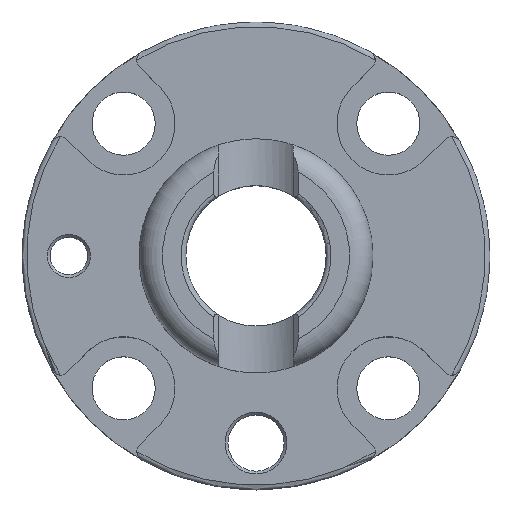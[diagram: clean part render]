
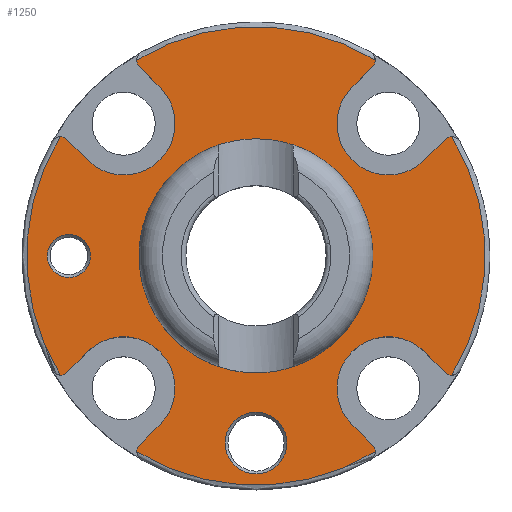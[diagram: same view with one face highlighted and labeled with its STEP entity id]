
A CAD part, top view. The second image highlights one B-rep face of the part: STEP entity #1250.
In plain terms, the highlighted planar face has unit normal (0, 0, 1).
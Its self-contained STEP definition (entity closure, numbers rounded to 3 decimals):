
#80=FACE_BOUND('',#191,.T.);
#81=FACE_BOUND('',#192,.T.);
#82=FACE_BOUND('',#193,.T.);
#89=PLANE('',#1351);
#119=FACE_OUTER_BOUND('',#190,.T.);
#190=EDGE_LOOP('',(#836,#837,#838,#839,#840,#841,#842,#843,#844,#845,#846,
#847,#848,#849,#850,#851,#852,#853,#854,#855,#856,#857,#858,#859));
#191=EDGE_LOOP('',(#860));
#192=EDGE_LOOP('',(#861,#862));
#193=EDGE_LOOP('',(#863));
#261=LINE('',#1915,#335);
#262=LINE('',#1919,#336);
#263=LINE('',#1927,#337);
#264=LINE('',#1931,#338);
#265=LINE('',#1939,#339);
#266=LINE('',#1943,#340);
#267=LINE('',#1951,#341);
#268=LINE('',#1954,#342);
#335=VECTOR('',#1541,10.);
#336=VECTOR('',#1544,10.);
#337=VECTOR('',#1551,10.);
#338=VECTOR('',#1554,10.);
#339=VECTOR('',#1561,10.);
#340=VECTOR('',#1564,10.);
#341=VECTOR('',#1571,10.);
#342=VECTOR('',#1574,10.);
#420=CIRCLE('',#1350,3.3);
#421=CIRCLE('',#1352,1.);
#422=CIRCLE('',#1353,24.5);
#423=CIRCLE('',#1354,1.);
#424=CIRCLE('',#1355,5.5);
#425=CIRCLE('',#1356,1.);
#426=CIRCLE('',#1357,24.5);
#427=CIRCLE('',#1358,1.);
#428=CIRCLE('',#1359,5.5);
#429=CIRCLE('',#1360,1.);
#430=CIRCLE('',#1361,24.5);
#431=CIRCLE('',#1362,1.);
#432=CIRCLE('',#1363,5.5);
#433=CIRCLE('',#1364,1.);
#434=CIRCLE('',#1365,24.5);
#435=CIRCLE('',#1366,1.);
#436=CIRCLE('',#1367,5.5);
#437=CIRCLE('',#1368,2.3);
#438=CIRCLE('',#1369,12.5);
#439=CIRCLE('',#1370,12.5);
#508=VERTEX_POINT('',#1903);
#509=VERTEX_POINT('',#1907);
#510=VERTEX_POINT('',#1908);
#511=VERTEX_POINT('',#1910);
#512=VERTEX_POINT('',#1912);
#513=VERTEX_POINT('',#1914);
#514=VERTEX_POINT('',#1916);
#515=VERTEX_POINT('',#1918);
#516=VERTEX_POINT('',#1920);
#517=VERTEX_POINT('',#1922);
#518=VERTEX_POINT('',#1924);
#519=VERTEX_POINT('',#1926);
#520=VERTEX_POINT('',#1928);
#521=VERTEX_POINT('',#1930);
#522=VERTEX_POINT('',#1932);
#523=VERTEX_POINT('',#1934);
#524=VERTEX_POINT('',#1936);
#525=VERTEX_POINT('',#1938);
#526=VERTEX_POINT('',#1940);
#527=VERTEX_POINT('',#1942);
#528=VERTEX_POINT('',#1944);
#529=VERTEX_POINT('',#1946);
#530=VERTEX_POINT('',#1948);
#531=VERTEX_POINT('',#1950);
#532=VERTEX_POINT('',#1952);
#533=VERTEX_POINT('',#1955);
#534=VERTEX_POINT('',#1957);
#535=VERTEX_POINT('',#1958);
#637=EDGE_CURVE('',#508,#508,#420,.T.);
#639=EDGE_CURVE('',#509,#510,#421,.T.);
#640=EDGE_CURVE('',#511,#509,#422,.T.);
#641=EDGE_CURVE('',#512,#511,#423,.T.);
#642=EDGE_CURVE('',#512,#513,#261,.T.);
#643=EDGE_CURVE('',#513,#514,#424,.T.);
#644=EDGE_CURVE('',#514,#515,#262,.T.);
#645=EDGE_CURVE('',#516,#515,#425,.T.);
#646=EDGE_CURVE('',#517,#516,#426,.T.);
#647=EDGE_CURVE('',#518,#517,#427,.T.);
#648=EDGE_CURVE('',#518,#519,#263,.T.);
#649=EDGE_CURVE('',#519,#520,#428,.T.);
#650=EDGE_CURVE('',#520,#521,#264,.T.);
#651=EDGE_CURVE('',#522,#521,#429,.T.);
#652=EDGE_CURVE('',#523,#522,#430,.T.);
#653=EDGE_CURVE('',#524,#523,#431,.T.);
#654=EDGE_CURVE('',#524,#525,#265,.T.);
#655=EDGE_CURVE('',#525,#526,#432,.T.);
#656=EDGE_CURVE('',#526,#527,#266,.T.);
#657=EDGE_CURVE('',#528,#527,#433,.T.);
#658=EDGE_CURVE('',#529,#528,#434,.T.);
#659=EDGE_CURVE('',#530,#529,#435,.T.);
#660=EDGE_CURVE('',#530,#531,#267,.T.);
#661=EDGE_CURVE('',#531,#532,#436,.T.);
#662=EDGE_CURVE('',#532,#510,#268,.T.);
#663=EDGE_CURVE('',#533,#533,#437,.T.);
#664=EDGE_CURVE('',#534,#535,#438,.T.);
#665=EDGE_CURVE('',#535,#534,#439,.T.);
#836=ORIENTED_EDGE('',*,*,#639,.F.);
#837=ORIENTED_EDGE('',*,*,#640,.F.);
#838=ORIENTED_EDGE('',*,*,#641,.F.);
#839=ORIENTED_EDGE('',*,*,#642,.T.);
#840=ORIENTED_EDGE('',*,*,#643,.T.);
#841=ORIENTED_EDGE('',*,*,#644,.T.);
#842=ORIENTED_EDGE('',*,*,#645,.F.);
#843=ORIENTED_EDGE('',*,*,#646,.F.);
#844=ORIENTED_EDGE('',*,*,#647,.F.);
#845=ORIENTED_EDGE('',*,*,#648,.T.);
#846=ORIENTED_EDGE('',*,*,#649,.T.);
#847=ORIENTED_EDGE('',*,*,#650,.T.);
#848=ORIENTED_EDGE('',*,*,#651,.F.);
#849=ORIENTED_EDGE('',*,*,#652,.F.);
#850=ORIENTED_EDGE('',*,*,#653,.F.);
#851=ORIENTED_EDGE('',*,*,#654,.T.);
#852=ORIENTED_EDGE('',*,*,#655,.T.);
#853=ORIENTED_EDGE('',*,*,#656,.T.);
#854=ORIENTED_EDGE('',*,*,#657,.F.);
#855=ORIENTED_EDGE('',*,*,#658,.F.);
#856=ORIENTED_EDGE('',*,*,#659,.F.);
#857=ORIENTED_EDGE('',*,*,#660,.T.);
#858=ORIENTED_EDGE('',*,*,#661,.T.);
#859=ORIENTED_EDGE('',*,*,#662,.T.);
#860=ORIENTED_EDGE('',*,*,#663,.F.);
#861=ORIENTED_EDGE('',*,*,#664,.T.);
#862=ORIENTED_EDGE('',*,*,#665,.T.);
#863=ORIENTED_EDGE('',*,*,#637,.F.);
#1250=ADVANCED_FACE('',(#119,#80,#81,#82),#89,.T.);
#1350=AXIS2_PLACEMENT_3D('',#1904,#1530,#1531);
#1351=AXIS2_PLACEMENT_3D('',#1906,#1533,#1534);
#1352=AXIS2_PLACEMENT_3D('',#1909,#1535,#1536);
#1353=AXIS2_PLACEMENT_3D('',#1911,#1537,#1538);
#1354=AXIS2_PLACEMENT_3D('',#1913,#1539,#1540);
#1355=AXIS2_PLACEMENT_3D('',#1917,#1542,#1543);
#1356=AXIS2_PLACEMENT_3D('',#1921,#1545,#1546);
#1357=AXIS2_PLACEMENT_3D('',#1923,#1547,#1548);
#1358=AXIS2_PLACEMENT_3D('',#1925,#1549,#1550);
#1359=AXIS2_PLACEMENT_3D('',#1929,#1552,#1553);
#1360=AXIS2_PLACEMENT_3D('',#1933,#1555,#1556);
#1361=AXIS2_PLACEMENT_3D('',#1935,#1557,#1558);
#1362=AXIS2_PLACEMENT_3D('',#1937,#1559,#1560);
#1363=AXIS2_PLACEMENT_3D('',#1941,#1562,#1563);
#1364=AXIS2_PLACEMENT_3D('',#1945,#1565,#1566);
#1365=AXIS2_PLACEMENT_3D('',#1947,#1567,#1568);
#1366=AXIS2_PLACEMENT_3D('',#1949,#1569,#1570);
#1367=AXIS2_PLACEMENT_3D('',#1953,#1572,#1573);
#1368=AXIS2_PLACEMENT_3D('',#1956,#1575,#1576);
#1369=AXIS2_PLACEMENT_3D('',#1959,#1577,#1578);
#1370=AXIS2_PLACEMENT_3D('',#1960,#1579,#1580);
#1530=DIRECTION('center_axis',(0.,0.,1.));
#1531=DIRECTION('ref_axis',(-1.,0.,0.));
#1533=DIRECTION('center_axis',(0.,0.,1.));
#1534=DIRECTION('ref_axis',(1.,0.,0.));
#1535=DIRECTION('center_axis',(0.,0.,-1.));
#1536=DIRECTION('ref_axis',(-0.137,0.991,0.));
#1537=DIRECTION('center_axis',(0.,0.,-1.));
#1538=DIRECTION('ref_axis',(-1.,0.,0.));
#1539=DIRECTION('center_axis',(0.,0.,-1.));
#1540=DIRECTION('ref_axis',(-0.137,-0.991,0.));
#1541=DIRECTION('',(0.707,0.707,0.));
#1542=DIRECTION('center_axis',(0.,0.,-1.));
#1543=DIRECTION('ref_axis',(0.707,-0.707,0.));
#1544=DIRECTION('',(-0.707,-0.707,0.));
#1545=DIRECTION('center_axis',(0.,0.,-1.));
#1546=DIRECTION('ref_axis',(-0.991,-0.137,0.));
#1547=DIRECTION('center_axis',(0.,0.,-1.));
#1548=DIRECTION('ref_axis',(0.,-1.,0.));
#1549=DIRECTION('center_axis',(0.,0.,-1.));
#1550=DIRECTION('ref_axis',(0.991,-0.137,0.));
#1551=DIRECTION('',(-0.707,0.707,0.));
#1552=DIRECTION('center_axis',(0.,0.,-1.));
#1553=DIRECTION('ref_axis',(-0.707,-0.707,0.));
#1554=DIRECTION('',(0.707,-0.707,0.));
#1555=DIRECTION('center_axis',(0.,0.,-1.));
#1556=DIRECTION('ref_axis',(0.137,-0.991,0.));
#1557=DIRECTION('center_axis',(0.,0.,-1.));
#1558=DIRECTION('ref_axis',(1.,0.,0.));
#1559=DIRECTION('center_axis',(0.,0.,-1.));
#1560=DIRECTION('ref_axis',(0.137,0.991,0.));
#1561=DIRECTION('',(-0.707,-0.707,0.));
#1562=DIRECTION('center_axis',(0.,0.,-1.));
#1563=DIRECTION('ref_axis',(0.707,-0.707,0.));
#1564=DIRECTION('',(0.707,0.707,0.));
#1565=DIRECTION('center_axis',(0.,0.,-1.));
#1566=DIRECTION('ref_axis',(0.991,0.137,0.));
#1567=DIRECTION('center_axis',(0.,0.,-1.));
#1568=DIRECTION('ref_axis',(0.,1.,0.));
#1569=DIRECTION('center_axis',(0.,0.,-1.));
#1570=DIRECTION('ref_axis',(-0.991,0.137,0.));
#1571=DIRECTION('',(0.707,-0.707,0.));
#1572=DIRECTION('center_axis',(0.,0.,-1.));
#1573=DIRECTION('ref_axis',(0.707,0.707,0.));
#1574=DIRECTION('',(-0.707,0.707,0.));
#1575=DIRECTION('center_axis',(0.,0.,1.));
#1576=DIRECTION('ref_axis',(-1.,0.,0.));
#1577=DIRECTION('center_axis',(0.,0.,-1.));
#1578=DIRECTION('ref_axis',(1.,0.,0.));
#1579=DIRECTION('center_axis',(0.,0.,-1.));
#1580=DIRECTION('ref_axis',(1.,0.,0.));
#1903=CARTESIAN_POINT('',(3.3,-20.,10.));
#1904=CARTESIAN_POINT('Origin',(0.,-20.,10.));
#1906=CARTESIAN_POINT('Origin',(-25.,0.,10.));
#1907=CARTESIAN_POINT('',(-20.927,12.74,10.));
#1908=CARTESIAN_POINT('',(-20.225,12.447,10.));
#1909=CARTESIAN_POINT('Origin',(-20.933,11.74,10.));
#1910=CARTESIAN_POINT('',(-20.927,-12.74,10.));
#1911=CARTESIAN_POINT('Origin',(0.,0.,10.));
#1912=CARTESIAN_POINT('',(-20.225,-12.447,10.));
#1913=CARTESIAN_POINT('Origin',(-20.933,-11.74,10.));
#1914=CARTESIAN_POINT('',(-18.031,-10.253,10.));
#1915=CARTESIAN_POINT('',(-20.139,-12.361,10.));
#1916=CARTESIAN_POINT('',(-10.253,-18.031,10.));
#1917=CARTESIAN_POINT('Origin',(-14.142,-14.142,10.));
#1918=CARTESIAN_POINT('',(-12.447,-20.225,10.));
#1919=CARTESIAN_POINT('',(-9.432,-17.21,10.));
#1920=CARTESIAN_POINT('',(-12.74,-20.927,10.));
#1921=CARTESIAN_POINT('Origin',(-11.74,-20.933,10.));
#1922=CARTESIAN_POINT('',(12.74,-20.927,10.));
#1923=CARTESIAN_POINT('Origin',(0.,0.,10.));
#1924=CARTESIAN_POINT('',(12.447,-20.225,10.));
#1925=CARTESIAN_POINT('Origin',(11.74,-20.933,10.));
#1926=CARTESIAN_POINT('',(10.253,-18.031,10.));
#1927=CARTESIAN_POINT('',(-0.139,-7.639,10.));
#1928=CARTESIAN_POINT('',(18.031,-10.253,10.));
#1929=CARTESIAN_POINT('Origin',(14.142,-14.142,10.));
#1930=CARTESIAN_POINT('',(20.225,-12.447,10.));
#1931=CARTESIAN_POINT('',(4.71,3.068,10.));
#1932=CARTESIAN_POINT('',(20.927,-12.74,10.));
#1933=CARTESIAN_POINT('Origin',(20.933,-11.74,10.));
#1934=CARTESIAN_POINT('',(20.927,12.74,10.));
#1935=CARTESIAN_POINT('Origin',(0.,0.,10.));
#1936=CARTESIAN_POINT('',(20.225,12.447,10.));
#1937=CARTESIAN_POINT('Origin',(20.933,11.74,10.));
#1938=CARTESIAN_POINT('',(18.031,10.253,10.));
#1939=CARTESIAN_POINT('',(7.639,-0.139,10.));
#1940=CARTESIAN_POINT('',(10.253,18.031,10.));
#1941=CARTESIAN_POINT('Origin',(14.142,14.142,10.));
#1942=CARTESIAN_POINT('',(12.447,20.225,10.));
#1943=CARTESIAN_POINT('',(-3.068,4.71,10.));
#1944=CARTESIAN_POINT('',(12.74,20.927,10.));
#1945=CARTESIAN_POINT('Origin',(11.74,20.933,10.));
#1946=CARTESIAN_POINT('',(-12.74,20.927,10.));
#1947=CARTESIAN_POINT('Origin',(0.,0.,10.));
#1948=CARTESIAN_POINT('',(-12.447,20.225,10.));
#1949=CARTESIAN_POINT('Origin',(-11.74,20.933,10.));
#1950=CARTESIAN_POINT('',(-10.253,18.031,10.));
#1951=CARTESIAN_POINT('',(-12.361,20.139,10.));
#1952=CARTESIAN_POINT('',(-18.031,10.253,10.));
#1953=CARTESIAN_POINT('Origin',(-14.142,14.142,10.));
#1954=CARTESIAN_POINT('',(-17.21,9.432,10.));
#1955=CARTESIAN_POINT('',(-17.7,0.,10.));
#1956=CARTESIAN_POINT('Origin',(-20.,0.,10.));
#1957=CARTESIAN_POINT('',(-12.5,0.,10.));
#1958=CARTESIAN_POINT('',(12.5,0.,10.));
#1959=CARTESIAN_POINT('Origin',(0.,0.,10.));
#1960=CARTESIAN_POINT('Origin',(0.,0.,10.));
